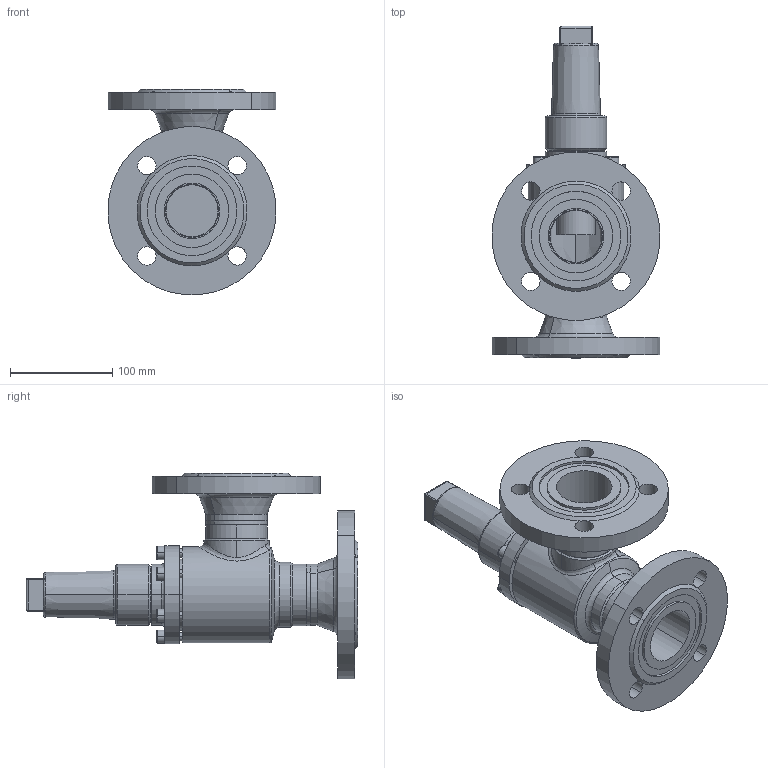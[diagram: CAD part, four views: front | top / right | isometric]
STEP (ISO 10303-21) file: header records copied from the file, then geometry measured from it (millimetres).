
FILE_DESCRIPTION (( 'STEP AP214' ), '1' );
FILE_NAME ('AVR26420D15-DN050_DIN-FL-N_PS40.STEP', '2006-04-27T13:48:59', ( 'Herr Grams' ), ( 'AWP GmbH' ), 'SwSTEP 2.0', 'SolidWorks 2002296', '' );
FILE_SCHEMA (( 'AUTOMOTIVE_DESIGN' ));
Length unit declared in the file: millimetre
Products named in the file (10): AVR26420D15-DN050_DIN-FL-N_PS40; AVR26300E15_Deck+Schr-DN40-50_Standard; Deckel26300E15-DN40-50_Standard; Zylinderschraube-DIN912_M 8x 25; Kappe16402_DN040-65_Standard; Gehäuse-kpl16420-DN050_DIN_PS40_Standard; bead16420-Geh-050-2_Standard; bead16420-Geh-050-1_Standard; Gehäuse16400-DN050_Standard; Flansch-DIN2635-Nut_PS40_DIN-Flansch-DN050_PS40-Nut
Assembly tree (15 placements, depth 3):
  AVR26420D15-DN050_DIN-FL-N_PS40
    Kappe16402_DN040-65_Standard
    AVR26300E15_Deck+Schr-DN40-50_Standard
      Zylinderschraube-DIN912_M 8x 25  x6
      Deckel26300E15-DN40-50_Standard
    Gehäuse-kpl16420-DN050_DIN_PS40_Standard
      Flansch-DIN2635-Nut_PS40_DIN-Flansch-DN050_PS40-Nut  x2
      bead16420-Geh-050-2_Standard
      bead16420-Geh-050-1_Standard
      Gehäuse16400-DN050_Standard
Bounding box: 164.37 x 325 x 201.19 mm (x, y, z)
Volume: 1423409.5 mm3; surface area: 282624.3 mm2
Topology: 13 solids, 13 shells, 332 faces, 755 edges, 474 vertices
Faces by surface type: cylinder 128, plane 105, cone 58, torus 31, bspline 10
Entity records: 18592 total; most frequent: CARTESIAN_POINT 13042, DIRECTION 1087, ORIENTED_EDGE 966, EDGE_CURVE 483, AXIS2_PLACEMENT_3D 462, VERTEX_POINT 302, EDGE_LOOP 253, CIRCLE 242
